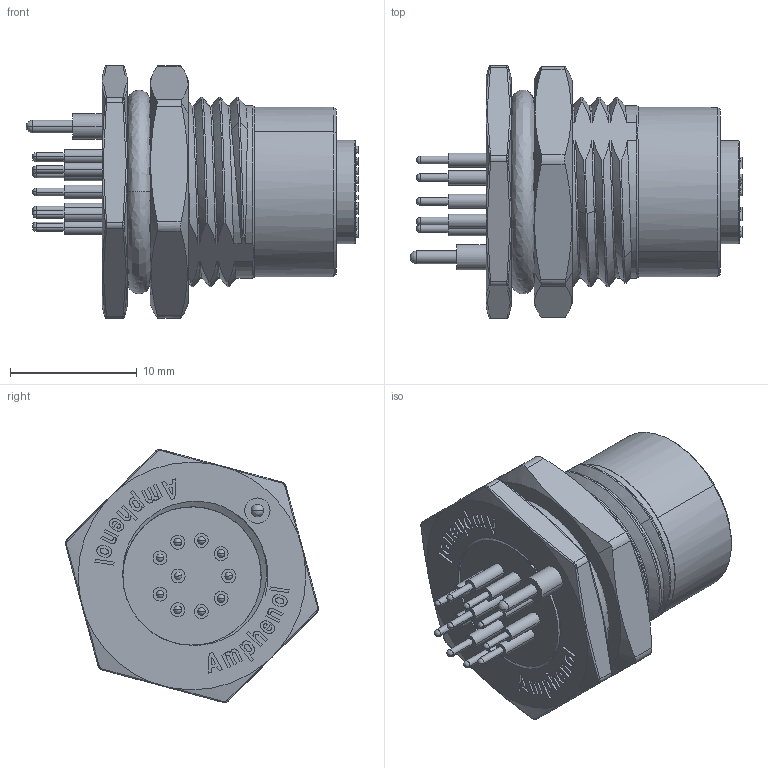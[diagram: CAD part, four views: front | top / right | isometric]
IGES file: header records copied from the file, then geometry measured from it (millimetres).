
Start section:  PTC IGES file: MSAS-10PFFP-SF8001.igs
Global section: file name: MSAS-10PFFP-SF8001.igs; native system: Creo Parametric by Parametric Technology Corporation; preprocessor: 2013050; author: KS7756; organization: Unknown; date: 20150916.160253; units: millimetre
Bounding box: 26.2 x 19.96 x 19.96 mm (x, y, z)
Volume: 3121 mm3; surface area: 3824.6 mm2
Topology: 1 solids, 1 shells, 957 faces, 2487 edges, 1611 vertices
Faces by surface type: bspline 462, revolution 322, extrusion 173
